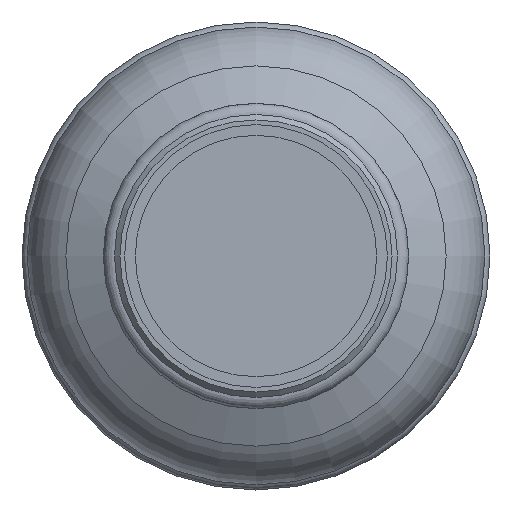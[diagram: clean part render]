
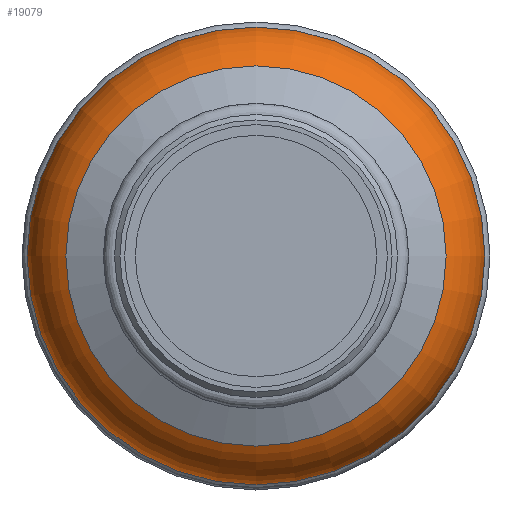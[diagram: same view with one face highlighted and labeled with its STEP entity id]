
A CAD part, front view. The second image highlights one B-rep face of the part: STEP entity #19079.
In plain terms, the highlighted toroidal (fillet/blend) face has major radius 41 mm and minor radius 20 mm.
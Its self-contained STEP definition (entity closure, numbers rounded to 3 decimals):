
#28=TOROIDAL_SURFACE('',#20483,41.,20.);
#133=FACE_BOUND('',#6761,.T.);
#5605=FACE_OUTER_BOUND('',#6760,.T.);
#6760=EDGE_LOOP('',(#17921));
#6761=EDGE_LOOP('',(#17922));
#7501=CIRCLE('',#20482,61.);
#7502=CIRCLE('',#20484,50.647);
#9405=VERTEX_POINT('',#40997);
#9406=VERTEX_POINT('',#41000);
#12248=EDGE_CURVE('',#9405,#9405,#7501,.T.);
#12249=EDGE_CURVE('',#9406,#9406,#7502,.T.);
#17921=ORIENTED_EDGE('',*,*,#12249,.F.);
#17922=ORIENTED_EDGE('',*,*,#12248,.T.);
#19079=ADVANCED_FACE('',(#5605,#133),#28,.T.);
#20482=AXIS2_PLACEMENT_3D('',#40998,#24648,#24649);
#20483=AXIS2_PLACEMENT_3D('',#40999,#24650,#24651);
#20484=AXIS2_PLACEMENT_3D('',#41001,#24652,#24653);
#24648=DIRECTION('center_axis',(0.,-1.,0.));
#24649=DIRECTION('ref_axis',(1.,0.,0.));
#24650=DIRECTION('center_axis',(0.,-1.,0.));
#24651=DIRECTION('ref_axis',(0.,0.,1.));
#24652=DIRECTION('center_axis',(0.,-1.,0.));
#24653=DIRECTION('ref_axis',(1.,0.,0.));
#40997=CARTESIAN_POINT('',(61.,-151.458,0.));
#40998=CARTESIAN_POINT('Origin',(0.,-151.458,
0.));
#40999=CARTESIAN_POINT('Origin',(0.,-151.458,
0.));
#41000=CARTESIAN_POINT('',(50.647,-168.978,0.));
#41001=CARTESIAN_POINT('Origin',(0.,-168.978,
0.));
